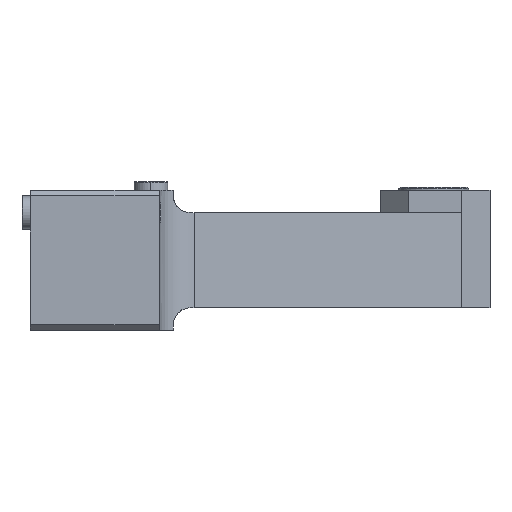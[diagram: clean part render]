
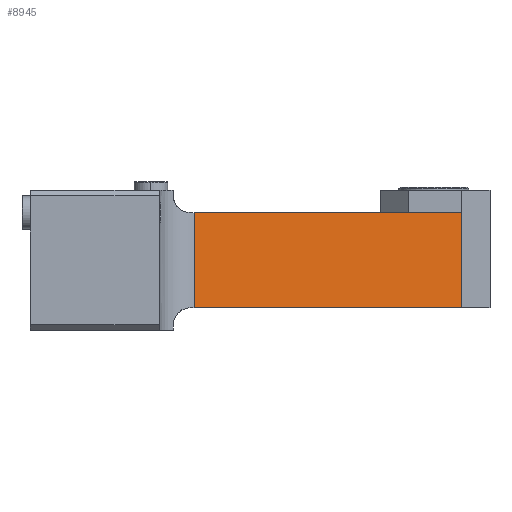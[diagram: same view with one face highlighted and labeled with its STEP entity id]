
A CAD part, left-side view. The second image highlights one B-rep face of the part: STEP entity #8945.
In plain terms, the highlighted planar face has unit normal (-0.985, -0.174, 0).
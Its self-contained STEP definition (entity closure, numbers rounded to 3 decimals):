
#442 = LINE ( 'NONE', #22784, #11724 ) ;
#649 = FACE_OUTER_BOUND ( 'NONE', #14964, .T. ) ;
#2048 = ORIENTED_EDGE ( 'NONE', *, *, #7137, .T. ) ;
#3856 = ORIENTED_EDGE ( 'NONE', *, *, #21357, .T. ) ;
#5536 = DIRECTION ( 'NONE',  ( 0.985, 0.174, 0. ) ) ;
#5686 = CARTESIAN_POINT ( 'NONE',  ( -20., -72., 8. ) ) ;
#5965 = ORIENTED_EDGE ( 'NONE', *, *, #26174, .F. ) ;
#6028 = EDGE_CURVE ( 'NONE', #6364, #9579, #6402, .T. ) ;
#6364 = VERTEX_POINT ( 'NONE', #11962 ) ;
#6376 = LINE ( 'NONE', #25010, #16153 ) ;
#6402 = LINE ( 'NONE', #12357, #14940 ) ;
#7137 = EDGE_CURVE ( 'NONE', #6364, #18085, #6376, .T. ) ;
#7153 = DIRECTION ( 'NONE',  ( 0., 0., -1. ) ) ;
#7226 = ORIENTED_EDGE ( 'NONE', *, *, #6028, .F. ) ;
#8945 = ADVANCED_FACE ( 'NONE', ( #649 ), #21537, .F. ) ;
#9116 = VECTOR ( 'NONE', #11660, 1000. ) ;
#9376 = CARTESIAN_POINT ( 'NONE',  ( -20., -72., 42. ) ) ;
#9407 = DIRECTION ( 'NONE',  ( -0.174, 0.985, 0. ) ) ;
#9579 = VERTEX_POINT ( 'NONE', #9376 ) ;
#10662 = DIRECTION ( 'NONE',  ( 0., 0., 1. ) ) ;
#11660 = DIRECTION ( 'NONE',  ( -0.174, 0.985, 0. ) ) ;
#11724 = VECTOR ( 'NONE', #10662, 1000. ) ;
#11962 = CARTESIAN_POINT ( 'NONE',  ( -36.858, 23.605, 42. ) ) ;
#12357 = CARTESIAN_POINT ( 'NONE',  ( -20., -72., 42. ) ) ;
#14940 = VECTOR ( 'NONE', #22620, 1000. ) ;
#14964 = EDGE_LOOP ( 'NONE', ( #2048, #5965, #3856, #7226 ) ) ;
#16153 = VECTOR ( 'NONE', #7153, 1000. ) ;
#16289 = CARTESIAN_POINT ( 'NONE',  ( -20., -72., 8. ) ) ;
#17394 = VERTEX_POINT ( 'NONE', #16289 ) ;
#18085 = VERTEX_POINT ( 'NONE', #19329 ) ;
#18603 = LINE ( 'NONE', #5686, #9116 ) ;
#19329 = CARTESIAN_POINT ( 'NONE',  ( -36.858, 23.605, 8. ) ) ;
#20386 = AXIS2_PLACEMENT_3D ( 'NONE', #21364, #5536, #9407 ) ;
#21357 = EDGE_CURVE ( 'NONE', #17394, #9579, #442, .T. ) ;
#21364 = CARTESIAN_POINT ( 'NONE',  ( -20., -72., 0. ) ) ;
#21537 = PLANE ( 'NONE',  #20386 ) ;
#22620 = DIRECTION ( 'NONE',  ( 0.174, -0.985, 0. ) ) ;
#22784 = CARTESIAN_POINT ( 'NONE',  ( -20., -72., 0. ) ) ;
#25010 = CARTESIAN_POINT ( 'NONE',  ( -36.858, 23.605, 0. ) ) ;
#26174 = EDGE_CURVE ( 'NONE', #17394, #18085, #18603, .T. ) ;
